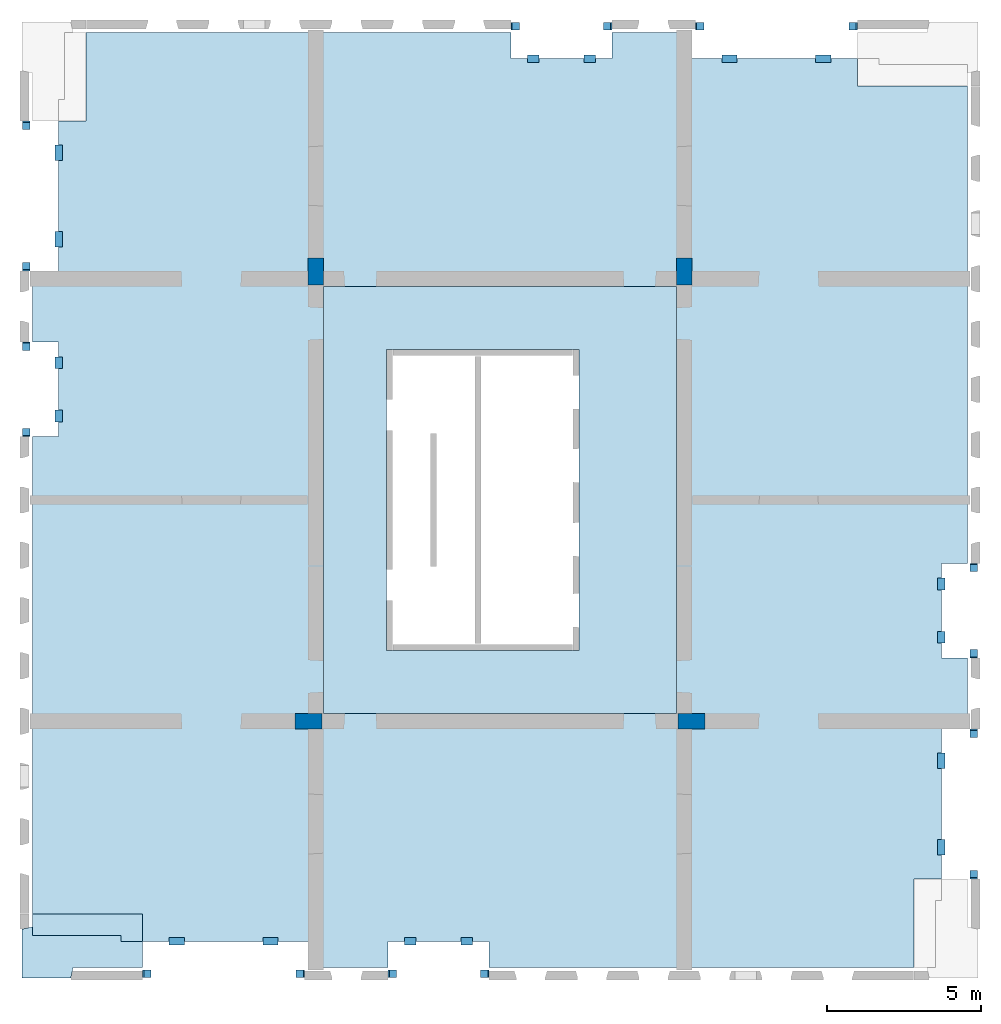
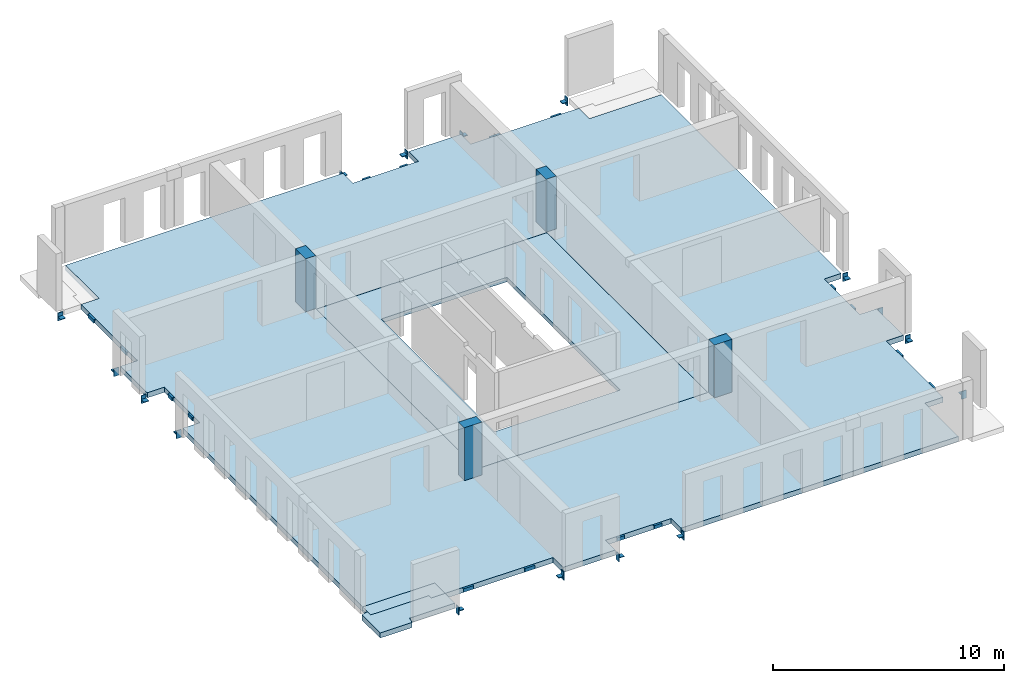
# One storey, part 1 of 4: 32 beams, 4 columns, 4 slabs, 2 openings.
"""IFC2X3 building model written with IfcOpenShell, lengths in millimetres."""

from ifc_helpers import new_model, entity, si_unit, converted_unit, derived_unit, direction, frame, frame_2d, origin, origin_2d_with_axis, place, context, subcontext, project, spatial, polyline, rectangle, outline, extrude, source, transform, mapped, material, layer, layer_set, layer_usage, type_object, type_shapes, element, save


model = new_model("IFC2X3")

# Units and contexts
model_context = context("Model", 3, precision=0.01, world=origin(), true_north=direction((6.12303176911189e-17, 1.0)))
body_context = subcontext(model_context, "Body", "Model", "MODEL_VIEW")
ifc_project = project(units=[si_unit("LENGTHUNIT", "METRE", prefix="MILLI"), si_unit("AREAUNIT", "SQUARE_METRE"), si_unit("VOLUMEUNIT", "CUBIC_METRE"), converted_unit("PLANEANGLEUNIT", "DEGREE", entity("IfcRatioMeasure", 0.0174532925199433), si_unit("PLANEANGLEUNIT", "RADIAN"), dimensions=[0, 0, 0, 0, 0, 0, 0]), si_unit("MASSUNIT", "GRAM", prefix="KILO"), derived_unit("MASSDENSITYUNIT", [(si_unit("MASSUNIT", "GRAM", prefix="KILO"), 1), (si_unit("LENGTHUNIT", "METRE"), -3)]), si_unit("TIMEUNIT", "SECOND"), si_unit("FREQUENCYUNIT", "HERTZ"), si_unit("THERMODYNAMICTEMPERATUREUNIT", "DEGREE_CELSIUS"), derived_unit("THERMALTRANSMITTANCEUNIT", [(si_unit("MASSUNIT", "GRAM", prefix="KILO"), 1), (si_unit("THERMODYNAMICTEMPERATUREUNIT", "KELVIN"), -1), (si_unit("TIMEUNIT", "SECOND"), -3)]), derived_unit("VOLUMETRICFLOWRATEUNIT", [(si_unit("LENGTHUNIT", "METRE"), 3), (si_unit("TIMEUNIT", "SECOND"), -1)]), si_unit("ELECTRICCURRENTUNIT", "AMPERE"), si_unit("ELECTRICVOLTAGEUNIT", "VOLT"), si_unit("POWERUNIT", "WATT"), si_unit("FORCEUNIT", "NEWTON", prefix="KILO"), si_unit("ILLUMINANCEUNIT", "LUX"), si_unit("LUMINOUSFLUXUNIT", "LUMEN"), si_unit("LUMINOUSINTENSITYUNIT", "CANDELA"), derived_unit("USERDEFINED", [(si_unit("MASSUNIT", "GRAM", prefix="KILO"), -1), (si_unit("LENGTHUNIT", "METRE"), -2), (si_unit("TIMEUNIT", "SECOND"), 3), (si_unit("LUMINOUSFLUXUNIT", "LUMEN"), 1)]), derived_unit("LINEARVELOCITYUNIT", [(si_unit("LENGTHUNIT", "METRE"), 1), (si_unit("TIMEUNIT", "SECOND"), -1)]), si_unit("PRESSUREUNIT", "PASCAL"), derived_unit("USERDEFINED", [(si_unit("LENGTHUNIT", "METRE"), -2), (si_unit("MASSUNIT", "GRAM", prefix="KILO"), 1), (si_unit("TIMEUNIT", "SECOND"), -2)])], contexts=[model_context])

# Site, building, storey
site_placement = place(None, origin())
site = spatial("IfcSite", under=ifc_project, at=site_placement, Name="Default", CompositionType="ELEMENT")
building_placement = place(site_placement, origin())
building = spatial("IfcBuilding", under=site, at=building_placement, Name="niet gebruiken", CompositionType="ELEMENT")
storey_placement = place(building_placement, frame((0.0, 0.0, 30240.0)))
storey = spatial("IfcBuildingStorey", under=building, at=storey_placement, Name="09 negende verdieping", CompositionType="ELEMENT", Elevation=30240.0)

# Columns
ifc_material_1 = material(Name="NLRS_f2_beton ihwg")
column_type_1 = type_object("IfcColumnType", Name="500x880", PredefinedType="COLUMN", material=ifc_material_1)
shared_shape_1 = source(origin(), body_context, "Body", "SweptSolid", [
    extrude(rectangle(XDim=879.999999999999, YDim=500.000000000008, at=origin_2d_with_axis()), frame((135750.003540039, 24940.0, 30150.0), z_axis=(0.0, 0.0, 1.0), x_axis=(0.0, -1.0, 0.0)), (0.0, 0.0, 1.0), 2790.0),
])
type_shapes(column_type_1, [shared_shape_1])
column_1_placement = place(storey_placement, frame((0.0, 0.0, -30240.0)))
element("IfcColumn", 1, at=column_1_placement, inside=storey, type_object=column_type_1, material=ifc_material_1, Name="NLRS_28.11_SCO_TLB_beton kolom ihwg_gen:500x880", ObjectType="500x880", context=body_context, shape_type="MappedRepresentation", body=[
    mapped(shared_shape_1, transform((0.0, 0.0, 0.0), scale=1.0)),
])
column_type_2 = type_object("IfcColumnType", Name="500x880", PredefinedType="COLUMN", material=ifc_material_1)
shared_shape_2 = source(origin(), body_context, "Body", "SweptSolid", [
    extrude(rectangle(XDim=879.999999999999, YDim=500.000000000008, at=origin_2d_with_axis()), frame((147750.0, 24940.0, 30150.0), z_axis=(0.0, 0.0, 1.0), x_axis=(0.0, -1.0, 0.0)), (0.0, 0.0, 1.0), 2790.0),
])
type_shapes(column_type_2, [shared_shape_2])
column_2_placement = place(storey_placement, frame((0.0, 0.0, -30240.0)))
element("IfcColumn", 2, at=column_2_placement, inside=storey, type_object=column_type_2, material=ifc_material_1, Name="NLRS_28.11_SCO_TLB_beton kolom ihwg_gen:500x880", ObjectType="500x880", context=body_context, shape_type="MappedRepresentation", body=[
    mapped(shared_shape_2, transform((0.0, 0.0, 0.0), scale=1.0)),
])
column_type_3 = type_object("IfcColumnType", Name="500x880", PredefinedType="COLUMN", material=ifc_material_1)
shared_shape_3 = source(origin(), body_context, "Body", "SweptSolid", [
    extrude(rectangle(XDim=500.000000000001, YDim=880.000000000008, at=origin_2d_with_axis()), frame((135510.003540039, 10300.0115507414, 30150.0), z_axis=(0.0, 0.0, 1.0), x_axis=(0.0, -1.0, 0.0)), (0.0, 0.0, 1.0), 2790.0),
])
type_shapes(column_type_3, [shared_shape_3])
column_3_placement = place(storey_placement, frame((0.0, 0.0, -30240.0)))
element("IfcColumn", 3, at=column_3_placement, inside=storey, type_object=column_type_3, material=ifc_material_1, Name="NLRS_28.11_SCO_TLB_beton kolom ihwg_gen:500x880", ObjectType="500x880", context=body_context, shape_type="MappedRepresentation", body=[
    mapped(shared_shape_3, transform((0.0, 0.0, 0.0), scale=1.0)),
])
column_type_4 = type_object("IfcColumnType", Name="500x880", PredefinedType="COLUMN", material=ifc_material_1)
shared_shape_4 = source(origin(), body_context, "Body", "SweptSolid", [
    extrude(rectangle(XDim=500.000000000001, YDim=880.000000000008, at=origin_2d_with_axis()), frame((147990.0, 10300.0, 30150.0), z_axis=(0.0, 0.0, 1.0), x_axis=(0.0, -1.0, 0.0)), (0.0, 0.0, 1.0), 2790.0),
])
type_shapes(column_type_4, [shared_shape_4])
column_4_placement = place(storey_placement, frame((0.0, 0.0, -30240.0)))
element("IfcColumn", 4, at=column_4_placement, inside=storey, type_object=column_type_4, material=ifc_material_1, Name="NLRS_28.11_SCO_TLB_beton kolom ihwg_gen:500x880", ObjectType="500x880", context=body_context, shape_type="MappedRepresentation", body=[
    mapped(shared_shape_4, transform((0.0, 0.0, 0.0), scale=1.0)),
])

# Beams
ifc_material_2 = material(Name="NLRS_h2_staal")
beam_type_1 = type_object("IfcBeamType", Name="NLRS_28.11_SF_WPB_stalen schoen 1_gen", PredefinedType="BEAM", material=ifc_material_2)
shared_shape_5 = source(origin(), body_context, "Body", "SweptSolid", [
    extrude(outline(polyline([(-39.5000000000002, -20.5000000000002), (-1.50000000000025, -20.5000000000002), (20.5000000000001, 1.50000000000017), (20.5000000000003, 39.5000000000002), (-39.5000000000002, -20.5000000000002)])), frame((-77.5000000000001, -84.4999999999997, -55.5000000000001), z_axis=(1.0, 0.0, 0.0), x_axis=(0.0, -1.0, 0.0)), (0.0, 0.0, 1.0), 35.0),
    extrude(outline(polyline([(-39.5000000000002, -20.5000000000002), (-1.50000000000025, -20.5000000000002), (20.5000000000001, 1.50000000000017), (20.5000000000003, 39.5000000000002), (-39.5000000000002, -20.5000000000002)])), frame((42.5000000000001, -84.4999999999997, -55.5000000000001), z_axis=(1.0, 0.0, 0.0), x_axis=(0.0, -1.0, 0.0)), (0.0, 0.0, 1.0), 35.0),
    extrude(rectangle(XDim=235.0, YDim=34.9999999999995, at=frame_2d((0.0, 8.88178419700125e-15), x_axis=(1.0, 0.0))), frame((0.0, -122.5, -230.0), z_axis=(0.0, 0.0, 1.0), x_axis=(-1.0, 0.0, 0.0)), (0.0, 0.0, 1.0), 420.0),
    extrude(rectangle(XDim=235.0, YDim=240.0, at=origin_2d_with_axis()), frame((0.0, 15.0, -35.0), z_axis=(0.0, 0.0, 1.0), x_axis=(-1.0, 0.0, 0.0)), (0.0, 0.0, 1.0), 35.0),
])
type_shapes(beam_type_1, [shared_shape_5])
beam_1_placement = place(storey_placement, frame((157180.0, 12500.0, -310.0)))
element("IfcBeam", 5, at=beam_1_placement, inside=storey, type_object=beam_type_1, material=ifc_material_2, Name="NLRS_28.11_SF_WPB_stalen schoen 1_gen:NLRS_28.11_SF_WPB_stalen schoen 1_gen", ObjectType="NLRS_28.11_SF_WPB_stalen schoen 1_gen", context=body_context, shape_type="MappedRepresentation", body=[
    mapped(shared_shape_5, transform((0.0, 0.0, 0.0), scale=1.0)),
])
for number, where, z_axis, x_axis, name in (
    (6, (126320.0, 22500.0, -310.0), (0.0, 0.0, 1.0), (-1.0, 0.0, 0.0), "NLRS_28.11_SF_WPB_stalen schoen 1_gen:NLRS_28.11_SF_WPB_stalen schoen 1_gen"),
    (7, (157180.0, 15300.0, -310.0), (0.0, 0.0, 1.0), (-1.0, 0.0, 0.0), "NLRS_28.11_SF_WPB_stalen schoen 1_gen:NLRS_28.11_SF_WPB_stalen schoen 1_gen"),
):
    element("IfcBeam", number, at=place(storey_placement, frame(where, z_axis=z_axis, x_axis=x_axis)), inside=storey, type_object=beam_type_1, material=ifc_material_2, Name=name, ObjectType="NLRS_28.11_SF_WPB_stalen schoen 1_gen", context=body_context, shape_type="MappedRepresentation", body=[
        mapped(shared_shape_5, transform((0.0, 0.0, 0.0), scale=1.0)),
    ])
beam_2_placement = place(storey_placement, frame((126320.0, 19700.0, -310.0)))
element("IfcBeam", 8, at=beam_2_placement, inside=storey, type_object=beam_type_1, material=ifc_material_2, Name="NLRS_28.11_SF_WPB_stalen schoen 1_gen:NLRS_28.11_SF_WPB_stalen schoen 1_gen", ObjectType="NLRS_28.11_SF_WPB_stalen schoen 1_gen", context=body_context, shape_type="MappedRepresentation", body=[
    mapped(shared_shape_5, transform((0.0, 0.0, 0.0), scale=1.0)),
])
for number, where, z_axis, x_axis, name in (
    (9, (138250.0, 2070.0, -310.0), (0.0, 0.0, 1.0), (0.0, -1.0, 0.0), "NLRS_28.11_SF_WPB_stalen schoen 1_gen:NLRS_28.11_SF_WPB_stalen schoen 1_gen"),
    (10, (141250.0, 2070.0, -310.0), (0.0, 0.0, 1.0), (0.0, 1.0, 0.0), "NLRS_28.11_SF_WPB_stalen schoen 1_gen:NLRS_28.11_SF_WPB_stalen schoen 1_gen"),
    (11, (145250.0, 32930.0, -310.0), (0.0, 0.0, 1.0), (0.0, 1.0, 0.0), "NLRS_28.11_SF_WPB_stalen schoen 1_gen:NLRS_28.11_SF_WPB_stalen schoen 1_gen"),
    (12, (142250.0, 32930.0, -310.0), (0.0, 0.0, 1.0), (0.0, -1.0, 0.0), "NLRS_28.11_SF_WPB_stalen schoen 1_gen:NLRS_28.11_SF_WPB_stalen schoen 1_gen"),
):
    element("IfcBeam", number, at=place(storey_placement, frame(where, z_axis=z_axis, x_axis=x_axis)), inside=storey, type_object=beam_type_1, material=ifc_material_2, Name=name, ObjectType="NLRS_28.11_SF_WPB_stalen schoen 1_gen", context=body_context, shape_type="MappedRepresentation", body=[
        mapped(shared_shape_5, transform((0.0, 0.0, 0.0), scale=1.0)),
    ])
beam_type_2 = type_object("IfcBeamType", Name="NLRS_28.11_SF_WPB_stalen schoen 2_gen", PredefinedType="BEAM", material=ifc_material_2)
shared_shape_6 = source(origin(), body_context, "Body", "SweptSolid", [
    extrude(outline(polyline([(-39.5000000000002, -20.5000000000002), (-1.50000000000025, -20.5000000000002), (20.5000000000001, 1.50000000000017), (20.5000000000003, 39.5000000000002), (-39.5000000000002, -20.5000000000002)])), frame((-77.5000000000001, -79.4999999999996, -60.5000000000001), z_axis=(1.0, 0.0, 0.0), x_axis=(0.0, -1.0, 0.0)), (0.0, 0.0, 1.0), 35.0),
    extrude(outline(polyline([(-39.5000000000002, -20.5000000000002), (-1.50000000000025, -20.5000000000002), (20.5000000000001, 1.50000000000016), (20.5000000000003, 39.5000000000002), (-39.5000000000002, -20.5000000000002)])), frame((42.5000000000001, -79.4999999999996, -60.5000000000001), z_axis=(1.0, 0.0, 0.0), x_axis=(0.0, -1.0, 0.0)), (0.0, 0.0, 1.0), 35.0),
    extrude(rectangle(XDim=235.0, YDim=39.9999999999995, at=frame_2d((0.0, 8.88178419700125e-15), x_axis=(1.0, 0.0))), frame((0.0, -120.0, -230.0), z_axis=(0.0, 0.0, 1.0), x_axis=(-1.0, 0.0, 0.0)), (0.0, 0.0, 1.0), 420.0),
    extrude(rectangle(XDim=235.0, YDim=235.0, at=origin_2d_with_axis()), frame((0.0, 17.5000000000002, -40.0), z_axis=(0.0, 0.0, 1.0), x_axis=(-1.0, 0.0, 0.0)), (0.0, 0.0, 1.0), 39.9999999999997),
])
type_shapes(beam_type_2, [shared_shape_6])
beam_3_placement = place(storey_placement, frame((157180.0, 9900.0, -310.0), z_axis=(0.0, 0.0, 1.0), x_axis=(-1.0, 0.0, 0.0)))
element("IfcBeam", 13, at=beam_3_placement, inside=storey, type_object=beam_type_2, material=ifc_material_2, Name="NLRS_28.11_SF_WPB_stalen schoen 2_gen:NLRS_28.11_SF_WPB_stalen schoen 2_gen", ObjectType="NLRS_28.11_SF_WPB_stalen schoen 2_gen", context=body_context, shape_type="MappedRepresentation", body=[
    mapped(shared_shape_6, transform((0.0, 0.0, 0.0), scale=1.0)),
])
for number, where, name in (
    (14, (157180.0, 5300.0, -310.0), "NLRS_28.11_SF_WPB_stalen schoen 2_gen:NLRS_28.11_SF_WPB_stalen schoen 2_gen"),
    (15, (126320.0, 25100.0, -310.0), "NLRS_28.11_SF_WPB_stalen schoen 2_gen:NLRS_28.11_SF_WPB_stalen schoen 2_gen"),
):
    element("IfcBeam", number, at=place(storey_placement, frame(where)), inside=storey, type_object=beam_type_2, material=ifc_material_2, Name=name, ObjectType="NLRS_28.11_SF_WPB_stalen schoen 2_gen", context=body_context, shape_type="MappedRepresentation", body=[
        mapped(shared_shape_6, transform((0.0, 0.0, 0.0), scale=1.0)),
    ])
for number, where, z_axis, x_axis, name in (
    (16, (126320.0, 29700.0, -310.0), (0.0, 0.0, 1.0), (-1.0, 0.0, 0.0), "NLRS_28.11_SF_WPB_stalen schoen 2_gen:NLRS_28.11_SF_WPB_stalen schoen 2_gen"),
    (17, (135250.0, 2070.0, -310.0), (0.0, 0.0, 1.0), (0.0, 1.0, 0.0), "NLRS_28.11_SF_WPB_stalen schoen 2_gen:NLRS_28.11_SF_WPB_stalen schoen 2_gen"),
    (18, (130250.0, 2070.0, -310.0), (0.0, 0.0, 1.0), (0.0, -1.0, 0.0), "NLRS_28.11_SF_WPB_stalen schoen 2_gen:NLRS_28.11_SF_WPB_stalen schoen 2_gen"),
    (19, (148250.0, 32930.0, -310.0), (0.0, 0.0, 1.0), (0.0, -1.0, 0.0), "NLRS_28.11_SF_WPB_stalen schoen 2_gen:NLRS_28.11_SF_WPB_stalen schoen 2_gen"),
    (20, (153250.0, 32930.0, -310.0), (0.0, 0.0, 1.0), (0.0, 1.0, 0.0), "NLRS_28.11_SF_WPB_stalen schoen 2_gen:NLRS_28.11_SF_WPB_stalen schoen 2_gen"),
):
    element("IfcBeam", number, at=place(storey_placement, frame(where, z_axis=z_axis, x_axis=x_axis)), inside=storey, type_object=beam_type_2, material=ifc_material_2, Name=name, ObjectType="NLRS_28.11_SF_WPB_stalen schoen 2_gen", context=body_context, shape_type="MappedRepresentation", body=[
        mapped(shared_shape_6, transform((0.0, 0.0, 0.0), scale=1.0)),
    ])
beam_type_3 = type_object("IfcBeamType", Name="NLRS_28.11_SF_WPB_stalen handje 7 lang 375_gen:NLRS_28.11_SF_WPB_stalen handje 7_gen", PredefinedType="BEAM")
beam_4_placement = place(storey_placement, frame((127264.874984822, 25744.7511353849, -93.0), z_axis=(0.0, 0.0, 1.0), x_axis=(0.0, 1.0, 0.0)))
element("IfcBeam", 21, at=beam_4_placement, inside=storey, type_object=beam_type_3, material=ifc_material_2, Name="NLRS_28.11_SF_WPB_stalen handje 7 lang 375_gen:NLRS_28.11_SF_WPB_stalen handje 7_gen", ObjectType="NLRS_28.11_SF_WPB_stalen handje 7 lang 375_gen:NLRS_28.11_SF_WPB_stalen handje 7_gen", context=body_context, shape_type="SweptSolid", body=[
    extrude(outline(polyline([(-70.6666666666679, -153.333333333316), (-40.6666666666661, -153.333333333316), (-40.6666666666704, 61.66666666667), (111.33333333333, 61.66666666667), (111.33333333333, 91.6666666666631), (-70.6666666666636, 91.6666666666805), (-70.6666666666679, -153.333333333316)])), frame((0.0, -91.6666666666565, -70.6666666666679), z_axis=(1.0, 0.0, 0.0), x_axis=(0.0, 0.0, -1.0)), (0.0, 0.0, 1.0), 500.0),
])
beam_5_placement = place(storey_placement, frame((127264.874984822, 28554.7541756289, -93.0), z_axis=(0.0, 0.0, 1.0), x_axis=(0.0, 1.0, 0.0)))
element("IfcBeam", 22, at=beam_5_placement, inside=storey, type_object=beam_type_3, material=ifc_material_2, Name="NLRS_28.11_SF_WPB_stalen handje 7 lang 375_gen:NLRS_28.11_SF_WPB_stalen handje 7_gen", ObjectType="NLRS_28.11_SF_WPB_stalen handje 7 lang 375_gen:NLRS_28.11_SF_WPB_stalen handje 7_gen", context=body_context, shape_type="SweptSolid", body=[
    extrude(outline(polyline([(-70.6666666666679, -153.333333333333), (-40.6666666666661, -153.333333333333), (-40.6666666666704, 61.6666666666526), (111.33333333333, 61.6666666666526), (111.33333333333, 91.6666666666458), (-70.6666666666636, 91.6666666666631), (-70.6666666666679, -153.333333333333)])), frame((0.0, -91.6666666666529, -70.6666666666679), z_axis=(1.0, 0.0, 0.0), x_axis=(0.0, 0.0, -1.0)), (0.0, 0.0, 1.0), 500.0),
])
beam_6_placement = place(storey_placement, frame((156235.125015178, 9255.24886461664, -93.0), z_axis=(0.0, 0.0, 1.0), x_axis=(0.0, -1.0, 0.0)))
element("IfcBeam", 23, at=beam_6_placement, inside=storey, type_object=beam_type_3, material=ifc_material_2, Name="NLRS_28.11_SF_WPB_stalen handje 7 lang 375_gen:NLRS_28.11_SF_WPB_stalen handje 7_gen", ObjectType="NLRS_28.11_SF_WPB_stalen handje 7 lang 375_gen:NLRS_28.11_SF_WPB_stalen handje 7_gen", context=body_context, shape_type="SweptSolid", body=[
    extrude(outline(polyline([(-70.6666666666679, -153.333333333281), (-40.6666666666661, -153.333333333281), (-40.6666666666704, 61.6666666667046), (111.33333333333, 61.6666666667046), (111.33333333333, 91.6666666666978), (-70.6666666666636, 91.6666666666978), (-70.6666666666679, -153.333333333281)])), frame((0.0, -91.6666666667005, -70.6666666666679), z_axis=(1.0, 0.0, 0.0), x_axis=(0.0, 0.0, -1.0)), (0.0, 0.0, 1.0), 500.000000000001),
])
beam_7_placement = place(storey_placement, frame((156235.125015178, 6445.2458243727, -93.0), z_axis=(0.0, 0.0, 1.0), x_axis=(0.0, -1.0, 0.0)))
element("IfcBeam", 24, at=beam_7_placement, inside=storey, type_object=beam_type_3, material=ifc_material_2, Name="NLRS_28.11_SF_WPB_stalen handje 7 lang 375_gen:NLRS_28.11_SF_WPB_stalen handje 7_gen", ObjectType="NLRS_28.11_SF_WPB_stalen handje 7 lang 375_gen:NLRS_28.11_SF_WPB_stalen handje 7_gen", context=body_context, shape_type="SweptSolid", body=[
    extrude(outline(polyline([(-70.6666666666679, -153.33333333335), (-40.6666666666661, -153.33333333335), (-40.6666666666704, 61.6666666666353), (111.33333333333, 61.6666666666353), (111.33333333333, 91.6666666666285), (-70.6666666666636, 91.6666666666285), (-70.6666666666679, -153.33333333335)])), frame((0.0, -91.6666666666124, -70.6666666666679), z_axis=(1.0, 0.0, 0.0), x_axis=(0.0, 0.0, -1.0)), (0.0, 0.0, 1.0), 500.000000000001),
])
for number, where, z_axis, x_axis, name in (
    (25, (140862.631597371, 3015.23611279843, -93.0), (0.0, 0.0, 1.0), (-1.0, 0.0, 0.0), "NLRS_28.11_SF_WPB_stalen handje 7 lang 375_gen:NLRS_28.11_SF_WPB_stalen handje 7_gen"),
    (26, (139012.628555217, 3015.23611279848, -93.0), (0.0, 0.0, 1.0), (-1.0, 0.0, 0.0), "NLRS_28.11_SF_WPB_stalen handje 7 lang 375_gen:NLRS_28.11_SF_WPB_stalen handje 7_gen"),
):
    element("IfcBeam", number, at=place(storey_placement, frame(where, z_axis=z_axis, x_axis=x_axis)), inside=storey, type_object=beam_type_3, material=ifc_material_2, Name=name, ObjectType="NLRS_28.11_SF_WPB_stalen handje 7 lang 375_gen:NLRS_28.11_SF_WPB_stalen handje 7_gen", context=body_context, shape_type="SweptSolid", body=[
        extrude(outline(polyline([(-70.6666666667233, -153.333333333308), (-40.6666666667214, -153.333333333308), (-40.6666666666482, 61.6666666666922), (111.333333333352, 61.6666666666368), (111.333333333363, 91.6666666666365), (-70.6666666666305, 91.6666666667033), (-70.6666666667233, -153.333333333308)])), frame((0.0, -91.6666666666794, -70.6666666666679), z_axis=(1.0, 0.0, 0.0), x_axis=(0.0, 0.0, -1.0)), (0.0, 0.0, 1.0), 375.000000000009),
    ])
for number, where, z_axis, x_axis, name in (
    (27, (134525.131597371, 3015.2361127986, -93.0), (0.0, 0.0, 1.0), (-1.0, 0.0, 0.0), "NLRS_28.11_SF_WPB_stalen handje 7 lang 375_gen:NLRS_28.11_SF_WPB_stalen handje 7_gen"),
    (28, (131475.128555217, 3015.23611279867, -93.0), (0.0, 0.0, 1.0), (-1.0, 0.0, 0.0), "NLRS_28.11_SF_WPB_stalen handje 7 lang 375_gen:NLRS_28.11_SF_WPB_stalen handje 7_gen"),
):
    element("IfcBeam", number, at=place(storey_placement, frame(where, z_axis=z_axis, x_axis=x_axis)), inside=storey, type_object=beam_type_3, material=ifc_material_2, Name=name, ObjectType="NLRS_28.11_SF_WPB_stalen handje 7 lang 375_gen:NLRS_28.11_SF_WPB_stalen handje 7_gen", context=body_context, shape_type="SweptSolid", body=[
        extrude(outline(polyline([(-70.6666666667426, -153.333333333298), (-40.6666666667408, -153.333333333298), (-40.6666666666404, 61.6666666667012), (111.33333333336, 61.6666666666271), (111.333333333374, 91.6666666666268), (-70.6666666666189, 91.666666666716), (-70.6666666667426, -153.333333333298)])), frame((0.0, -91.6666666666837, -70.6666666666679), z_axis=(1.0, 0.0, 0.0), x_axis=(0.0, 0.0, -1.0)), (0.0, 0.0, 1.0), 500.000000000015),
    ])
beam_8_placement = place(storey_placement, frame((142637.368402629, 31984.7638872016, -93.0)))
element("IfcBeam", 29, at=beam_8_placement, inside=storey, type_object=beam_type_3, material=ifc_material_2, Name="NLRS_28.11_SF_WPB_stalen handje 7 lang 375_gen:NLRS_28.11_SF_WPB_stalen handje 7_gen", ObjectType="NLRS_28.11_SF_WPB_stalen handje 7 lang 375_gen:NLRS_28.11_SF_WPB_stalen handje 7_gen", context=body_context, shape_type="SweptSolid", body=[
    extrude(outline(polyline([(-70.6666666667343, -153.333333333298), (-40.6666666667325, -153.333333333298), (-40.6666666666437, 61.6666666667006), (111.333333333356, 61.6666666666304), (111.333333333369, 91.6666666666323), (-70.6666666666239, 91.6666666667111), (-70.6666666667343, -153.333333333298)])), frame((0.0, -91.6666666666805, -70.6666666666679), z_axis=(1.0, 0.0, 0.0), x_axis=(0.0, 0.0, -1.0)), (0.0, 0.0, 1.0), 375.000000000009),
])
beam_9_placement = place(storey_placement, frame((144487.371444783, 31984.7638872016, -93.0)))
element("IfcBeam", 30, at=beam_9_placement, inside=storey, type_object=beam_type_3, material=ifc_material_2, Name="NLRS_28.11_SF_WPB_stalen handje 7 lang 375_gen:NLRS_28.11_SF_WPB_stalen handje 7_gen", ObjectType="NLRS_28.11_SF_WPB_stalen handje 7 lang 375_gen:NLRS_28.11_SF_WPB_stalen handje 7_gen", context=body_context, shape_type="SweptSolid", body=[
    extrude(outline(polyline([(-70.6666666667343, -153.333333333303), (-40.6666666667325, -153.333333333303), (-40.6666666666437, 61.6666666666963), (111.333333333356, 61.6666666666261), (111.333333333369, 91.6666666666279), (-70.6666666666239, 91.6666666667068), (-70.6666666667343, -153.333333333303)])), frame((0.0, -91.6666666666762, -70.6666666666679), z_axis=(1.0, 0.0, 0.0), x_axis=(0.0, 0.0, -1.0)), (0.0, 0.0, 1.0), 375.000000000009),
])
beam_10_placement = place(storey_placement, frame((148974.868402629, 31984.7638872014, -93.0)))
element("IfcBeam", 31, at=beam_10_placement, inside=storey, type_object=beam_type_3, material=ifc_material_2, Name="NLRS_28.11_SF_WPB_stalen handje 7 lang 375_gen:NLRS_28.11_SF_WPB_stalen handje 7_gen", ObjectType="NLRS_28.11_SF_WPB_stalen handje 7 lang 375_gen:NLRS_28.11_SF_WPB_stalen handje 7_gen", context=body_context, shape_type="SweptSolid", body=[
    extrude(outline(polyline([(-70.6666666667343, -153.333333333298), (-40.6666666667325, -153.333333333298), (-40.6666666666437, 61.6666666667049), (111.333333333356, 61.6666666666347), (111.333333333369, 91.6666666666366), (-70.6666666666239, 91.6666666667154), (-70.6666666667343, -153.333333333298)])), frame((0.0, -91.6666666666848, -70.6666666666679), z_axis=(1.0, 0.0, 0.0), x_axis=(0.0, 0.0, -1.0)), (0.0, 0.0, 1.0), 500.000000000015),
])
beam_11_placement = place(storey_placement, frame((152024.871444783, 31984.7638872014, -93.0)))
element("IfcBeam", 32, at=beam_11_placement, inside=storey, type_object=beam_type_3, material=ifc_material_2, Name="NLRS_28.11_SF_WPB_stalen handje 7 lang 375_gen:NLRS_28.11_SF_WPB_stalen handje 7_gen", ObjectType="NLRS_28.11_SF_WPB_stalen handje 7 lang 375_gen:NLRS_28.11_SF_WPB_stalen handje 7_gen", context=body_context, shape_type="SweptSolid", body=[
    extrude(outline(polyline([(-70.6666666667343, -153.333333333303), (-40.6666666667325, -153.333333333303), (-40.6666666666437, 61.6666666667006), (111.333333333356, 61.6666666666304), (111.333333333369, 91.6666666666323), (-70.6666666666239, 91.6666666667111), (-70.6666666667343, -153.333333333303)])), frame((0.0, -91.6666666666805, -70.6666666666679), z_axis=(1.0, 0.0, 0.0), x_axis=(0.0, 0.0, -1.0)), (0.0, 0.0, 1.0), 500.000000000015),
])
beam_12_placement = place(storey_placement, frame((127265.0, 20047.4902884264, -93.0), z_axis=(0.0, 0.0, 1.0), x_axis=(0.0, 1.0, 0.0)))
element("IfcBeam", 33, at=beam_12_placement, inside=storey, type_object=beam_type_3, material=ifc_material_2, Name="NLRS_28.11_SF_WPB_stalen handje 7 lang 375_gen:NLRS_28.11_SF_WPB_stalen handje 7_gen", ObjectType="NLRS_28.11_SF_WPB_stalen handje 7 lang 375_gen:NLRS_28.11_SF_WPB_stalen handje 7_gen", context=body_context, shape_type="SweptSolid", body=[
    extrude(outline(polyline([(-70.6666666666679, -153.333333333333), (-40.6666666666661, -153.333333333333), (-40.6666666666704, 61.66666666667), (111.33333333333, 61.6666666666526), (111.33333333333, 91.6666666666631), (-70.6666666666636, 91.6666666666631), (-70.6666666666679, -153.333333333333)])), frame((0.0, -91.6666666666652, -70.6666666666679), z_axis=(1.0, 0.0, 0.0), x_axis=(0.0, 0.0, -1.0)), (0.0, 0.0, 1.0), 375.000000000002),
])
beam_13_placement = place(storey_placement, frame((127265.0, 21777.4902884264, -93.0), z_axis=(0.0, 0.0, 1.0), x_axis=(0.0, 1.0, 0.0)))
element("IfcBeam", 34, at=beam_13_placement, inside=storey, type_object=beam_type_3, material=ifc_material_2, Name="NLRS_28.11_SF_WPB_stalen handje 7 lang 375_gen:NLRS_28.11_SF_WPB_stalen handje 7_gen", ObjectType="NLRS_28.11_SF_WPB_stalen handje 7 lang 375_gen:NLRS_28.11_SF_WPB_stalen handje 7_gen", context=body_context, shape_type="SweptSolid", body=[
    extrude(outline(polyline([(-70.6666666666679, -153.333333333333), (-40.6666666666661, -153.333333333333), (-40.6666666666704, 61.66666666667), (111.33333333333, 61.6666666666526), (111.33333333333, 91.6666666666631), (-70.6666666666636, 91.6666666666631), (-70.6666666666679, -153.333333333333)])), frame((0.0, -91.6666666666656, -70.6666666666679), z_axis=(1.0, 0.0, 0.0), x_axis=(0.0, 0.0, -1.0)), (0.0, 0.0, 1.0), 375.000000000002),
])
beam_14_placement = place(storey_placement, frame((156235.0, 14952.5097115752, -93.0), z_axis=(0.0, 0.0, 1.0), x_axis=(0.0, -1.0, 0.0)))
element("IfcBeam", 35, at=beam_14_placement, inside=storey, type_object=beam_type_3, material=ifc_material_2, Name="NLRS_28.11_SF_WPB_stalen handje 7 lang 375_gen:NLRS_28.11_SF_WPB_stalen handje 7_gen", ObjectType="NLRS_28.11_SF_WPB_stalen handje 7 lang 375_gen:NLRS_28.11_SF_WPB_stalen handje 7_gen", context=body_context, shape_type="SweptSolid", body=[
    extrude(outline(polyline([(-70.6666666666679, -153.333333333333), (-40.6666666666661, -153.333333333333), (-40.6666666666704, 61.66666666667), (111.33333333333, 61.66666666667), (111.33333333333, 91.6666666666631), (-70.6666666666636, 91.6666666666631), (-70.6666666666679, -153.333333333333)])), frame((0.0, -91.6666666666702, -70.6666666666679), z_axis=(1.0, 0.0, 0.0), x_axis=(0.0, 0.0, -1.0)), (0.0, 0.0, 1.0), 375.000000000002),
])
beam_15_placement = place(storey_placement, frame((156235.0, 13222.5097115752, -93.0), z_axis=(0.0, 0.0, 1.0), x_axis=(0.0, -1.0, 0.0)))
element("IfcBeam", 36, at=beam_15_placement, inside=storey, type_object=beam_type_3, material=ifc_material_2, Name="NLRS_28.11_SF_WPB_stalen handje 7 lang 375_gen:NLRS_28.11_SF_WPB_stalen handje 7_gen", ObjectType="NLRS_28.11_SF_WPB_stalen handje 7 lang 375_gen:NLRS_28.11_SF_WPB_stalen handje 7_gen", context=body_context, shape_type="SweptSolid", body=[
    extrude(outline(polyline([(-70.6666666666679, -153.333333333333), (-40.6666666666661, -153.333333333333), (-40.6666666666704, 61.66666666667), (111.33333333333, 61.66666666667), (111.33333333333, 91.6666666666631), (-70.6666666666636, 91.6666666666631), (-70.6666666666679, -153.333333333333)])), frame((0.0, -91.666666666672, -70.6666666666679), z_axis=(1.0, 0.0, 0.0), x_axis=(0.0, 0.0, -1.0)), (0.0, 0.0, 1.0), 375.000000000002),
])

# Slabs
ifc_material_3 = material(Name="NLRS_f2_beton prefab")
ifc_layer_1 = layer(ifc_material_3, 270.0)
ifc_layer_set_1 = layer_set([ifc_layer_1], Name="Floor:NLRS_23.22_FL_beton prefab d=270 3D element_gen")
ifc_layer_usage_1 = layer_usage(ifc_layer_set_1, "AXIS3", "POSITIVE", 0.0)
slab_1_placement = place(storey_placement, origin())
element("IfcSlab", 37, at=slab_1_placement, inside=storey, material=ifc_layer_usage_1, Name="Floor:NLRS_23.22_FL_beton prefab d=270 3D element_gen", ObjectType="Floor:NLRS_23.22_FL_beton prefab d=270 3D element_gen", PredefinedType="LANDING", context=body_context, shape_type="SweptSolid", body=[
    extrude(outline(polyline([(-1010.01841692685, -1470.01841692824), (580.128918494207, -1470.01841692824), (647.981583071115, -1137.01841692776), (1072.98158307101, -1137.01841692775), (1072.981583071, 2452.9815830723), (-677.018416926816, 2452.98158307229), (-677.018416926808, 187.981583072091), (-1010.01841692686, 120.128918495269), (-1010.01841692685, -1470.01841692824)])), frame((127657.018416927, 2947.01841693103, -90.0), z_axis=(0.0, 0.0, -1.0), x_axis=(0.0, 1.0, 0.0)), (0.0, 0.0, 1.0), 269.999999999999),
])
ifc_layer_2 = layer(ifc_material_1, 170.0)
ifc_layer_set_2 = layer_set([ifc_layer_2], Name="Floor:NLRS_23.21_FL_beton ihwg d=170_gen")
ifc_layer_usage_2 = layer_usage(ifc_layer_set_2, "AXIS3", "POSITIVE", 0.0)
slab_2_placement = place(storey_placement, origin())
element("IfcSlab", 38, at=slab_2_placement, inside=storey, material=ifc_layer_usage_2, Name="Floor:NLRS_23.21_FL_beton ihwg d=170_gen", ObjectType="Floor:NLRS_23.21_FL_beton ihwg d=170_gen", PredefinedType="FLOOR", context=body_context, shape_type="SweptSolid", body=[
    extrude(outline(polyline([(-166.666666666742, -2160.0), (533.333333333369, -2160.0), (533.333333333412, 1430.0), (-366.666666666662, 1430.0), (-366.666666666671, 730.0), (-166.666666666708, 730.0), (-166.666666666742, -2160.0)])), frame((128680.0, 3486.66666666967, -90.0), z_axis=(0.0, 0.0, -1.0), x_axis=(0.0, 1.0, 0.0)), (0.0, 0.0, 1.0), 170.0),
])

# Slab, opening
ifc_layer_3 = layer(ifc_material_1, 230.0)
ifc_layer_set_3 = layer_set([ifc_layer_3], Name="Floor:NLRS_23.21_FL_vloer=230_gen")
ifc_layer_usage_3 = layer_usage(ifc_layer_set_3, "AXIS3", "POSITIVE", 0.0)
slab_3_placement = place(storey_placement, frame((136000.0, 10549.7638872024, -320.0)))
slab_3 = element("IfcSlab", 39, at=slab_3_placement, inside=storey, material=ifc_layer_usage_3, Name="Floor:NLRS_23.21_FL_vloer=230_gen", ObjectType="Floor:NLRS_23.21_FL_vloer=230_gen", PredefinedType="FLOOR", context=body_context, shape_type="SweptSolid", body=[
    extrude(rectangle(XDim=13900.2361127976, YDim=11500.0, at=frame_2d((0.0, 0.0), x_axis=(0.0, -1.0))), frame((5750.0, 6950.11805639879, 230.0), z_axis=(0.0, 0.0, -1.0), x_axis=(-1.0, 0.0, 0.0)), (0.0, 0.0, 1.0), 230.0),
])
opening_1_placement = place(slab_3_placement, frame((5190.0, 6950.23611279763, 230.0)))
element("IfcOpeningElement", 40, at=opening_1_placement, cuts=slab_3, Name="Floor:NLRS_23.21_FL_vloer=230_gen:2", ObjectType="Opening", context=body_context, shape_type="SweptSolid", body=[
    extrude(rectangle(XDim=9800.0, YDim=6279.99999999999, at=origin_2d_with_axis()), frame((0.0, 0.0, 0.0), z_axis=(0.0, 0.0, -1.0), x_axis=(0.0, -1.0, 0.0)), (0.0, 0.0, 1.0), 230.0),
])

ifc_layer_4 = layer(ifc_material_1, 170.0)
ifc_layer_5 = layer(ifc_material_3, 100.0)
ifc_layer_set_4 = layer_set([ifc_layer_4, ifc_layer_5], Name="Floor:NLRS_23.21_FL_breedplaat d=100/270_gen")
ifc_layer_usage_4 = layer_usage(ifc_layer_set_4, "AXIS3", "POSITIVE", 0.0)
slab_4_placement = place(storey_placement, frame((126520.0, 2270.0, -360.0)))
slab_4 = element("IfcSlab", 41, at=slab_4_placement, inside=storey, material=ifc_layer_usage_4, Name="Floor:NLRS_23.21_FL_breedplaat d=100/270_gen", ObjectType="Floor:NLRS_23.21_FL_breedplaat d=100/270_gen", PredefinedType="FLOOR", context=body_context, shape_type="SweptSolid", body=[
    extrude(outline(polyline([(-360.0, 15230.0), (-360.0, 14380.0), (-3640.0, 14380.0), (-3640.0, 15230.0), (-6250.0, 15230.0), (-6250.0, 14380.0), (-11640.0, 14380.0), (-11640.0, 13480.0), (-15230.0, 13480.0), (-15230.0, -2060.0), (-14380.0, -2060.0), (-14380.0, -5140.0), (-15230.0, -5140.0), (-15230.0, -7450.0), (-14380.0, -7450.0), (-14380.0, -12340.0), (-13480.0, -12340.0), (-13480.0, -15230.0), (360.0, -15230.0), (360.0, -14380.0), (3640.0, -14380.0), (3640.0, -15230.0), (6250.0, -15230.0), (6250.0, -14380.0), (11640.0, -14380.0), (11640.0, -13480.0), (15230.0, -13480.0), (15230.0, 2060.0), (14380.0, 2060.0), (14380.0, 5140.0), (15230.0, 5140.0), (15230.0, 7450.0), (14380.0, 7450.0), (14380.0, 12340.0), (13480.0, 12340.0), (13480.0, 15230.0), (-360.0, 15230.0)])), frame((15230.0, 15230.0, 270.0), z_axis=(0.0, 0.0, -1.0), x_axis=(-1.0, 0.0, 0.0)), (0.0, 0.0, 1.0), 269.999999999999),
])
opening_2_placement = place(slab_4_placement, frame((15230.0, 15230.0, 270.0)))
element("IfcOpeningElement", 42, at=opening_2_placement, cuts=slab_4, Name="Floor:NLRS_23.21_FL_breedplaat d=100/270_gen:2", ObjectType="Opening", context=body_context, shape_type="SweptSolid", body=[
    extrude(rectangle(XDim=13899.9999999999, YDim=11500.0, at=origin_2d_with_axis()), frame((0.0, 0.0, 0.0), z_axis=(0.0, 0.0, -1.0), x_axis=(0.0, -1.0, 0.0)), (0.0, 0.0, 1.0), 269.999999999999),
])

save(model, "model.ifc")
